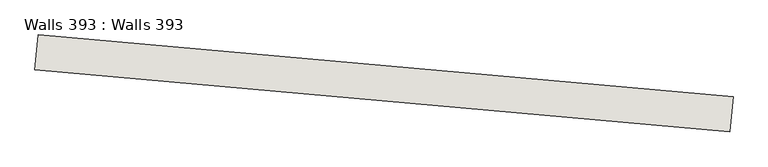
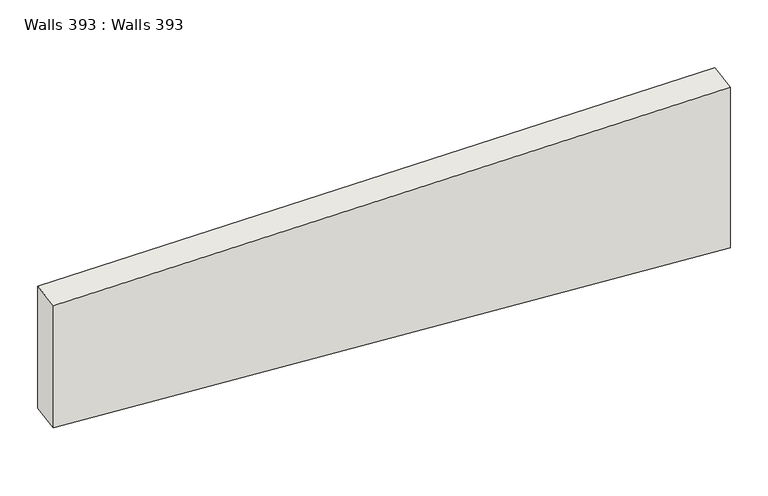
"""IFC4 building model written with IfcOpenShell, lengths in millimetres: wall geometry, Walls 393 : Walls 393."""

from ifc_helpers import new_model, si_unit, frame, origin, place, context, project, spatial, polyline, outline, extrude, source, transform, mapped, element, save


def walls_393_walls_393_d2896f91(model_context):
    return source(origin(), model_context, "Body", "SweptSolid", [
        extrude(outline(polyline([(-1050.0, 0.0), (1050.0, 0.0), (550.5, -7999.9999999), (-1050.0, -7999.9999999), (-1050.0, 0.0)])), frame((-602953.1650578, -425364.1454362, 636910.0), z_axis=(0.08873732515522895, 0.9960550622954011, 0.0), x_axis=(0.0, 0.0, 1.0)), (0.0, 0.0, 1.0), 400.0),
    ])


if __name__ == "__main__":
    model = new_model("IFC4")
    model_context = context("Model", 3, world=origin())
    ifc_project = project(units=[si_unit("LENGTHUNIT", "METRE", prefix="MILLI")], contexts=[model_context])
    site = spatial("IfcSite", under=ifc_project)
    building = spatial("IfcBuilding", under=site)
    placement = place(None, origin())
    walls_393_walls_393_shape = walls_393_walls_393_d2896f91(model_context)
    element("IfcWall", 1, ObjectType="Walls 393 : Walls 393", at=placement, inside=building, context=model_context, shape_type="MappedRepresentation", body=[
        mapped(walls_393_walls_393_shape, transform((0.0, 0.0, 0.0), x_axis=(1.0, 0.0, 0.0), y_axis=(0.0, 1.0, 0.0), z_axis=(0.0, 0.0, 1.0))),
    ])
    save(model, "model.ifc")
